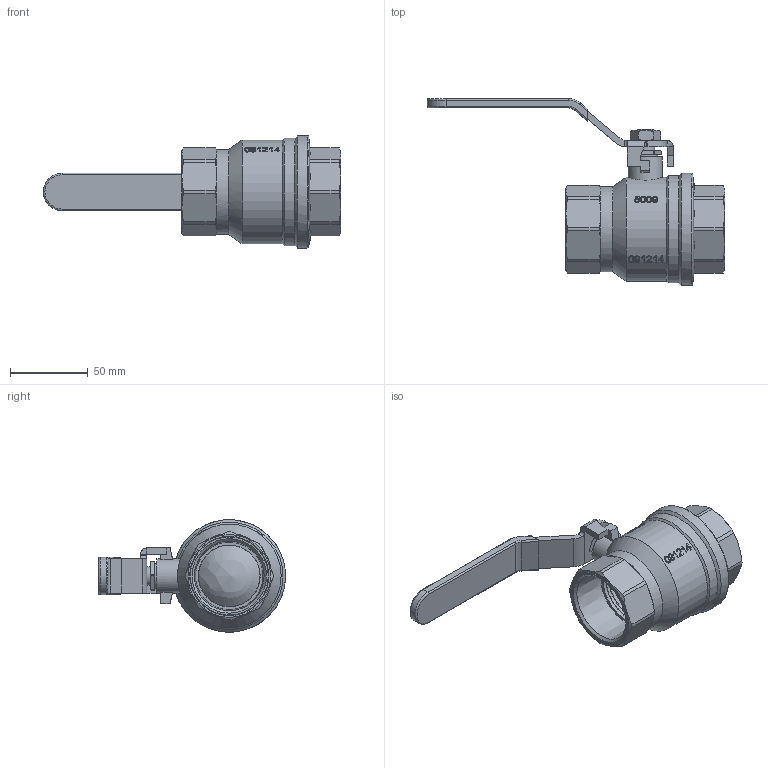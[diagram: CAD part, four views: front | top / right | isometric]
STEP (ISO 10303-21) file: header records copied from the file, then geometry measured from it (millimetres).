
FILE_DESCRIPTION((''),'2;1');
FILE_NAME('P:\Fastrack\53972_CRANE 3D\Fig100YL\100YL-112\100YL-112.stp','2011-01-27T16:38:42',('btaylor'),(''),'Autodesk Inventor 2008','Autodesk Inventor 2008','');
FILE_SCHEMA(('AUTOMOTIVE_DESIGN { 1 0 10303 214 1 1 1 1 }'));
Length unit declared in the file: millimetre
Products named in the file (1): 100YL-112
Bounding box: 191 x 120.12 x 72.19 mm (x, y, z)
Volume: 259758.5 mm3; surface area: 86882.7 mm2
Topology: 7 solids, 9 shells, 1752 faces, 4597 edges, 3033 vertices
Faces by surface type: plane 898, bspline 651, cylinder 115, cone 70, torus 15, sphere 3
Full cylindrical faces by diameter (mm): 12 x2, 12.1 x2, 12.5 x1, 13 x1, 13.5 x1, 16 x1, 16.3 x1, 16.5 x2, 22 x1, 39.5 x4, 39.7 x2, 49 x2, 50 x4, 54.5 x1, 57.5 x1, 62 x1, 64 x1, 64.2 x1, 66.6 x1, 69 x1, 72.3 x1
Entity records: 134277 total; most frequent: CARTESIAN_POINT 94167, ORIENTED_EDGE 8982, DIRECTION 5618, EDGE_CURVE 4491, VERTEX_POINT 2999, VECTOR 2712, LINE 2712, EDGE_LOOP 2020
